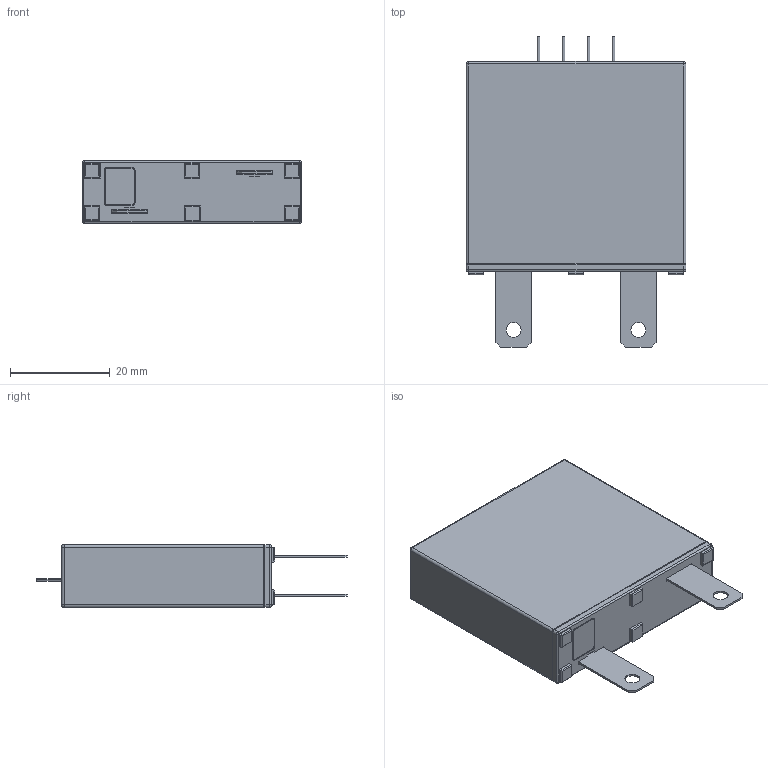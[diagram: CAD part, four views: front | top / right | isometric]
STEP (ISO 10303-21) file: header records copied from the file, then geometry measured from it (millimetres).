
FILE_DESCRIPTION((''),'2;1');
FILE_NAME('TFMOV40K-12-2IT-20200812','2020-08-12T',('SET-01114'),(''),'PRO/ENGINEER BY PARAMETRIC TECHNOLOGY CORPORATION, 2012310','PRO/ENGINEER BY PARAMETRIC TECHNOLOGY CORPORATION, 2012310','');
FILE_SCHEMA(('CONFIG_CONTROL_DESIGN','SHAPE_APPEARANCE_LAYERS_GROUPS'));
Length unit declared in the file: millimetre
Products named in the file (1): TFMOV40K-12-2IT-20200812
Bounding box: 44 x 62.2 x 12.6 mm (x, y, z)
Volume: 23353.9 mm3; surface area: 6515.9 mm2
Topology: 1 solids, 2 shells, 175 faces, 408 edges, 252 vertices
Faces by surface type: plane 94, cylinder 65, torus 8, bspline 4, sphere 4
Entity records: 6347 total; most frequent: CARTESIAN_POINT 1049, DIRECTION 826, ORIENTED_EDGE 816, PRESENTATION_STYLE_ASSIGNMENT 409, STYLED_ITEM 409, CURVE_STYLE 408, EDGE_CURVE 408, VECTOR 288
